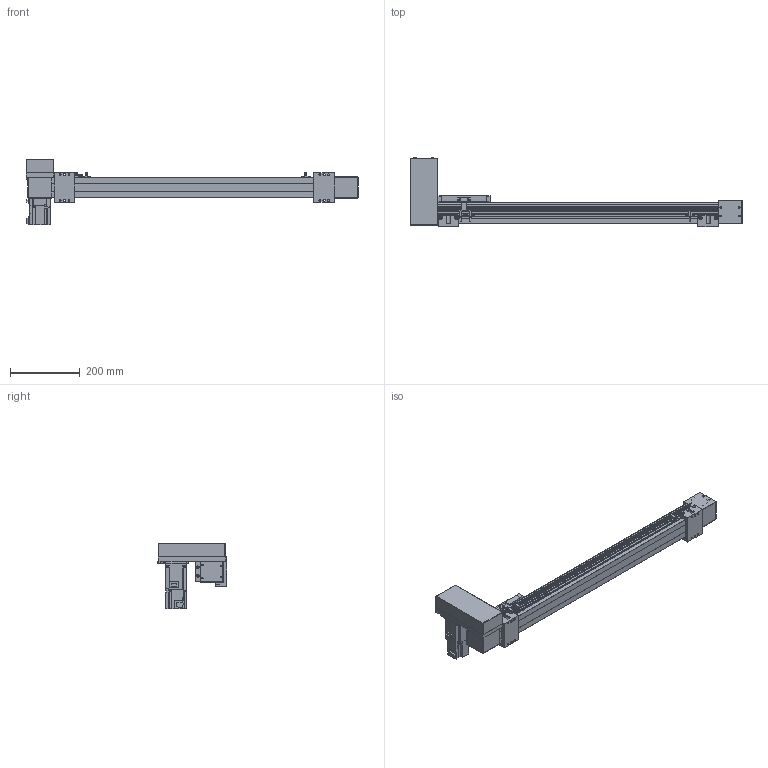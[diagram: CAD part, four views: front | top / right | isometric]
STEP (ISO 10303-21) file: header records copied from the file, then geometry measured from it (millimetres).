
FILE_DESCRIPTION(/* description */ ('STEP AP214'),/* implementation_level */ '2;1');
FILE_NAME(/* name */ 'SK60-P13-S650-RU-T40-C1-N(0)',/* time_stamp */ '2023-04-06T05:02:23+02:00',/* author */ ('License CC BY-ND 4.0'),/* organization */ ('CADENAS'),/* preprocessor_version */ 'ST-DEVELOPER v19.3',/* originating_system */ 'PARTsolutions',/* authorisation */ ' ');
FILE_SCHEMA (('AUTOMOTIVE_DESIGN {1 0 10303 214 3 1 1}'));
Length unit declared in the file: millimetre
Products named in the file (10): SK60-P13-S650-RU-T40-C1-N(0); PSC140-sensor; SK60-S450_seat; SK60-S450-BL-C1_slider; SK60_body3; SK60_body6; SK60-BL_body2; T40-p1; SK60-RU_fb; SK60-S650-RU-C1_body
Assembly tree (16 placements, depth 2):
  SK60-P13-S650-RU-T40-C1-N(0)
    PSC140-sensor  x3
    SK60-S450_seat  x2
    SK60-S450-BL-C1_slider
    SK60_body3  x3
    SK60_body6  x2
    SK60-BL_body2  x2
    T40-p1
    SK60-RU_fb
    SK60-S650-RU-C1_body
Bounding box: 955.5 x 201 x 189.7 mm (x, y, z)
Volume: 4455827.4 mm3; surface area: 580748.6 mm2
Topology: 16 solids, 16 shells, 810 faces, 2048 edges, 1349 vertices
Faces by surface type: plane 524, cylinder 262, cone 22, torus 2
Full cylindrical faces by diameter (mm): 2.8 x3, 3.3 x4, 4 x2, 4.5 x30, 4.6 x3, 4.917 x16, 5 x6, 5.478 x4, 5.5 x19, 6.5 x4, 7 x2, 8 x4, 8.5 x4, 9.988 x4, 10 x8, 14 x1, 47 x3, 50 x2
Entity records: 18655 total; most frequent: DIRECTION 3184, CARTESIAN_POINT 3150, ORIENTED_EDGE 2940, EDGE_CURVE 1470, AXIS2_PLACEMENT_3D 1068, LINE 1048, VECTOR 1048, VERTEX_POINT 1034
